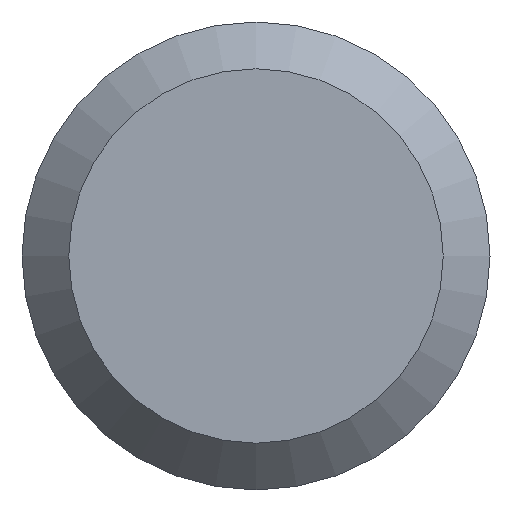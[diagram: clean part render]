
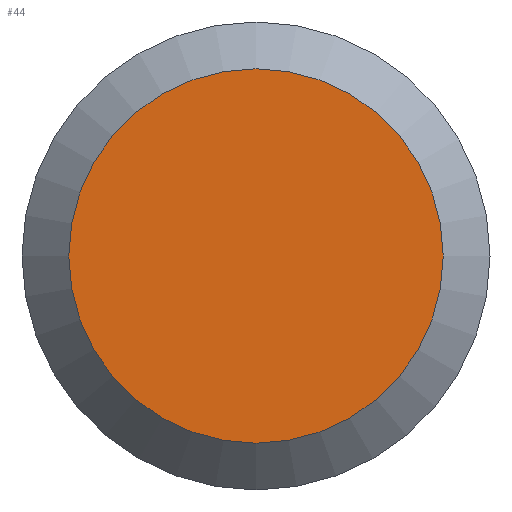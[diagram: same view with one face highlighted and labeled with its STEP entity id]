
A CAD part, left-side view. The second image highlights one B-rep face of the part: STEP entity #44.
In plain terms, the highlighted planar face has unit normal (-1, 0, 0).
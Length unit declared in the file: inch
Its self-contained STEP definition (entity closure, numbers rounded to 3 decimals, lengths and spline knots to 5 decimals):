
#14 = CARTESIAN_POINT ( 'NONE',  ( 0., 0.2065, 0. ) ) ;
#23 = EDGE_LOOP ( 'NONE', ( #58 ) ) ;
#35 = VERTEX_POINT ( 'NONE', #123 ) ;
#42 = CARTESIAN_POINT ( 'NONE',  ( 0., 0., 0. ) ) ;
#44 = ADVANCED_FACE ( 'NONE', ( #154 ), #174, .F. ) ;
#58 = ORIENTED_EDGE ( 'NONE', *, *, #230, .T. ) ;
#80 = DIRECTION ( 'NONE',  ( 1., 0., 0. ) ) ;
#116 = DIRECTION ( 'NONE',  ( 0., 0., -1. ) ) ;
#123 = CARTESIAN_POINT ( 'NONE',  ( 0., 0., -0.1652 ) ) ;
#148 = CIRCLE ( 'NONE', #149, 0.1652 ) ;
#149 = AXIS2_PLACEMENT_3D ( 'NONE', #42, #239, #116 ) ;
#154 = FACE_OUTER_BOUND ( 'NONE', #23, .T. ) ;
#174 = PLANE ( 'NONE',  #192 ) ;
#192 = AXIS2_PLACEMENT_3D ( 'NONE', #14, #80, #218 ) ;
#218 = DIRECTION ( 'NONE',  ( 0., 0., -1. ) ) ;
#230 = EDGE_CURVE ( 'NONE', #35, #35, #148, .T. ) ;
#239 = DIRECTION ( 'NONE',  ( -1., 0., 0. ) ) ;
